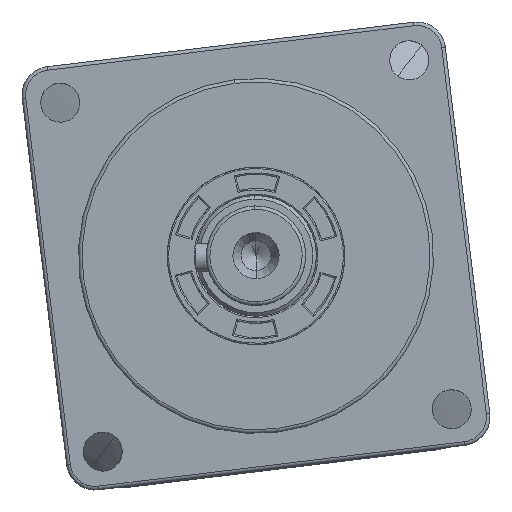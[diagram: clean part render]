
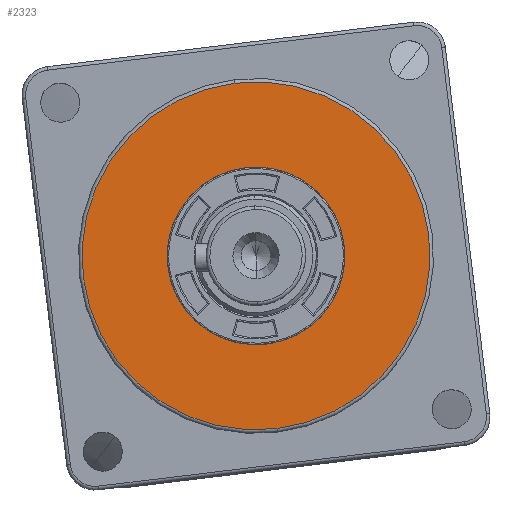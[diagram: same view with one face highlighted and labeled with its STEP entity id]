
A CAD part, top view. The second image highlights one B-rep face of the part: STEP entity #2323.
In plain terms, the highlighted planar face has unit normal (0, 0, 1) as drawn and (-1, 0, 0) by its records, which use the part's own axes.
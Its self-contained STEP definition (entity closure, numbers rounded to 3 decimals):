
#74 = ORIENTED_EDGE ( 'NONE', *, *, #5134, .T. ) ;
#315 = DIRECTION ( 'NONE',  ( 0., 0., 1. ) ) ;
#380 = EDGE_CURVE ( 'NONE', #10020, #715, #5232, .T. ) ;
#715 = VERTEX_POINT ( 'NONE', #2091 ) ;
#1090 = EDGE_CURVE ( 'NONE', #5133, #6305, #4180, .T. ) ;
#1112 = ORIENTED_EDGE ( 'NONE', *, *, #1227, .T. ) ;
#1227 = EDGE_CURVE ( 'NONE', #715, #10020, #3897, .T. ) ;
#1635 = EDGE_LOOP ( 'NONE', ( #74, #2214 ) ) ;
#2091 = CARTESIAN_POINT ( 'NONE',  ( -3., 0., 12.5 ) ) ;
#2106 = CARTESIAN_POINT ( 'NONE',  ( -3., 0., 0. ) ) ;
#2214 = ORIENTED_EDGE ( 'NONE', *, *, #1090, .T. ) ;
#2323 = ADVANCED_FACE ( 'NONE', ( #11892, #4326 ), #11287, .T. ) ;
#3067 = DIRECTION ( 'NONE',  ( 0., 0., -1. ) ) ;
#3756 = AXIS2_PLACEMENT_3D ( 'NONE', #5601, #3792, #9503 ) ;
#3792 = DIRECTION ( 'NONE',  ( -1., 0., 0. ) ) ;
#3897 = CIRCLE ( 'NONE', #7650, 12.5 ) ;
#4180 = CIRCLE ( 'NONE', #6368, 24.5 ) ;
#4326 = FACE_BOUND ( 'NONE', #6181, .T. ) ;
#5133 = VERTEX_POINT ( 'NONE', #8073 ) ;
#5134 = EDGE_CURVE ( 'NONE', #6305, #5133, #7293, .T. ) ;
#5147 = CARTESIAN_POINT ( 'NONE',  ( -3., 0., 0. ) ) ;
#5183 = DIRECTION ( 'NONE',  ( 0., 0., 1. ) ) ;
#5232 = CIRCLE ( 'NONE', #9709, 12.5 ) ;
#5601 = CARTESIAN_POINT ( 'NONE',  ( -3., 0., 0. ) ) ;
#6017 = CARTESIAN_POINT ( 'NONE',  ( -3., 0., 0. ) ) ;
#6181 = EDGE_LOOP ( 'NONE', ( #11316, #1112 ) ) ;
#6305 = VERTEX_POINT ( 'NONE', #8529 ) ;
#6368 = AXIS2_PLACEMENT_3D ( 'NONE', #6017, #10781, #315 ) ;
#6425 = AXIS2_PLACEMENT_3D ( 'NONE', #5147, #11794, #5183 ) ;
#7136 = DIRECTION ( 'NONE',  ( 0., 0., -1. ) ) ;
#7293 = CIRCLE ( 'NONE', #6425, 24.5 ) ;
#7650 = AXIS2_PLACEMENT_3D ( 'NONE', #10945, #8020, #7136 ) ;
#8020 = DIRECTION ( 'NONE',  ( 1., 0., 0. ) ) ;
#8073 = CARTESIAN_POINT ( 'NONE',  ( -3., 0., -24.5 ) ) ;
#8529 = CARTESIAN_POINT ( 'NONE',  ( -3., 0., 24.5 ) ) ;
#9503 = DIRECTION ( 'NONE',  ( 0., 0., 1. ) ) ;
#9709 = AXIS2_PLACEMENT_3D ( 'NONE', #2106, #11554, #3067 ) ;
#10020 = VERTEX_POINT ( 'NONE', #11175 ) ;
#10781 = DIRECTION ( 'NONE',  ( -1., 0., 0. ) ) ;
#10945 = CARTESIAN_POINT ( 'NONE',  ( -3., 0., 0. ) ) ;
#11175 = CARTESIAN_POINT ( 'NONE',  ( -3., 0., -12.5 ) ) ;
#11287 = PLANE ( 'NONE',  #3756 ) ;
#11316 = ORIENTED_EDGE ( 'NONE', *, *, #380, .T. ) ;
#11554 = DIRECTION ( 'NONE',  ( 1., 0., 0. ) ) ;
#11794 = DIRECTION ( 'NONE',  ( -1., 0., 0. ) ) ;
#11892 = FACE_OUTER_BOUND ( 'NONE', #1635, .T. ) ;
